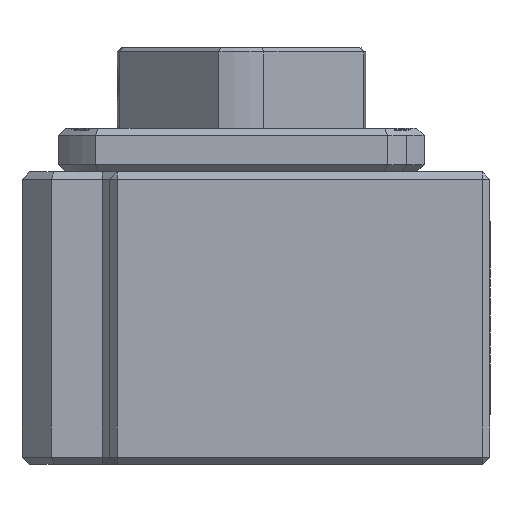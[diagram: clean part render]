
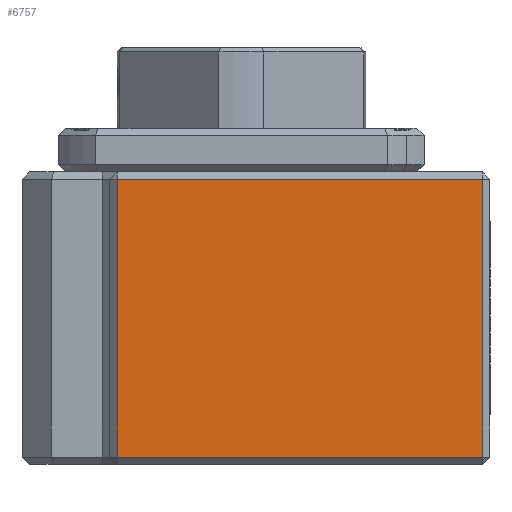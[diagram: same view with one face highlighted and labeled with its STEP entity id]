
A CAD part, left-side view. The second image highlights one B-rep face of the part: STEP entity #6757.
In plain terms, the highlighted planar face has unit normal (-1, 0, 0).
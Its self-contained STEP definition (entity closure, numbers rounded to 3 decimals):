
#143 = FACE_OUTER_BOUND ( 'NONE', #377, .T. ) ;
#237 = ORIENTED_EDGE ( 'NONE', *, *, #12838, .T. ) ;
#238 = ORIENTED_EDGE ( 'NONE', *, *, #12424, .T. ) ;
#239 = ORIENTED_EDGE ( 'NONE', *, *, #12558, .T. ) ;
#240 = ORIENTED_EDGE ( 'NONE', *, *, #12428, .T. ) ;
#377 = EDGE_LOOP ( 'NONE', ( #240, #238, #239, #237 ) ) ;
#872 = VECTOR ( 'NONE', #2129, 1000. ) ;
#1279 = VECTOR ( 'NONE', #4348, 1000. ) ;
#1650 = LINE ( 'NONE', #1651, #3651 ) ;
#1651 = CARTESIAN_POINT ( 'NONE',  ( -26., 9., -9.5 ) ) ;
#1652 = DIRECTION ( 'NONE',  ( 0., -1., 0. ) ) ;
#1662 = LINE ( 'NONE', #1663, #3656 ) ;
#1663 = CARTESIAN_POINT ( 'NONE',  ( -26., 8.5, 10. ) ) ;
#1664 = DIRECTION ( 'NONE',  ( 0., 0., -1. ) ) ;
#2127 = LINE ( 'NONE', #2128, #872 ) ;
#2128 = CARTESIAN_POINT ( 'NONE',  ( -26., -16.5, 10. ) ) ;
#2129 = DIRECTION ( 'NONE',  ( 0., 0., 1. ) ) ;
#3651 = VECTOR ( 'NONE', #1652, 1000. ) ;
#3656 = VECTOR ( 'NONE', #1664, 1000. ) ;
#4346 = LINE ( 'NONE', #4347, #1279 ) ;
#4347 = CARTESIAN_POINT ( 'NONE',  ( -26., 9., 9.5 ) ) ;
#4348 = DIRECTION ( 'NONE',  ( 0., 1., 0. ) ) ;
#6757 = ADVANCED_FACE ( 'NONE', ( #143 ), #8990, .F. ) ;
#7725 = VERTEX_POINT ( 'NONE', #11077 ) ;
#7726 = VERTEX_POINT ( 'NONE', #11078 ) ;
#7727 = VERTEX_POINT ( 'NONE', #11079 ) ;
#7728 = VERTEX_POINT ( 'NONE', #11080 ) ;
#8990 = PLANE ( 'NONE',  #13212 ) ;
#8991 = CARTESIAN_POINT ( 'NONE',  ( -26., 9., 10. ) ) ;
#8992 = DIRECTION ( 'NONE',  ( 1., 0., 0. ) ) ;
#8993 = DIRECTION ( 'NONE',  ( 0., 0., -1. ) ) ;
#11077 = CARTESIAN_POINT ( 'NONE',  ( -26., 8.5, 9.5 ) ) ;
#11078 = CARTESIAN_POINT ( 'NONE',  ( -26., 8.5, -9.5 ) ) ;
#11079 = CARTESIAN_POINT ( 'NONE',  ( -26., -16.5, -9.5 ) ) ;
#11080 = CARTESIAN_POINT ( 'NONE',  ( -26., -16.5, 9.5 ) ) ;
#12424 = EDGE_CURVE ( 'NONE', #7726, #7727, #1650, .T. ) ;
#12428 = EDGE_CURVE ( 'NONE', #7725, #7726, #1662, .T. ) ;
#12558 = EDGE_CURVE ( 'NONE', #7727, #7728, #2127, .T. ) ;
#12838 = EDGE_CURVE ( 'NONE', #7728, #7725, #4346, .T. ) ;
#13212 = AXIS2_PLACEMENT_3D ( 'NONE', #8991, #8992, #8993 ) ;
